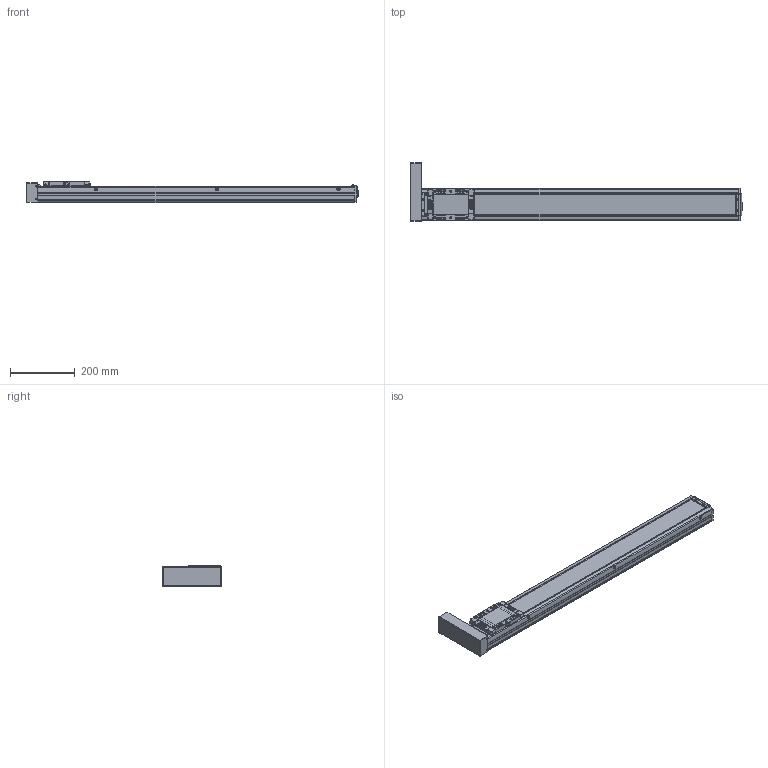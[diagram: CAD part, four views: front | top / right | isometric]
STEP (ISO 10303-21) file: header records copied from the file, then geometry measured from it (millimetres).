
FILE_DESCRIPTION(('STEP AP214'),'1');
FILE_NAME('Z:/Web/3D/SAN100/SAN100 양산용 (STEP)/SAN100ㅁㅁ-800PL.stp','2013-04-30T01:21:05',(' '),(' '),'Spatial InterOp 3D',' ',' ');
FILE_SCHEMA(('automotive_design'));
Length unit declared in the file: millimetre
Products named in the file (33): BTCV-SAN65; BHCS M3 X 6L; SUS COVER; SFX-SAN100; RRCV-SAN100; 스크루 : Round - M4.0 x 10.0; M3.0 x 6.0; 스크루 : Round - M3.0 x 6.0; FRBL-SAN100; SLBL-SAN100; SLCV-SAN100; 스크루 : Countersunk - M3.0 x 6.0; BASE; 스크루 : Round - M5.0 x 6.0
Bounding box: 1026.5 x 184.13 x 66 mm (x, y, z)
Volume: 3011940.6 mm3; surface area: 683147.9 mm2
Topology: 33 solids, 34 shells, 1994 faces, 5210 edges, 3345 vertices
Faces by surface type: plane 959, cylinder 767, cone 186, sphere 48, torus 18, bspline 16
Entity records: 78810 total; most frequent: CARTESIAN_POINT 12088, DIRECTION 10985, ORIENTED_EDGE 10216, EDGE_CURVE 5108, AXIS2_PLACEMENT_3D 3975, VERTEX_POINT 3345, LINE 3035, VECTOR 3035
